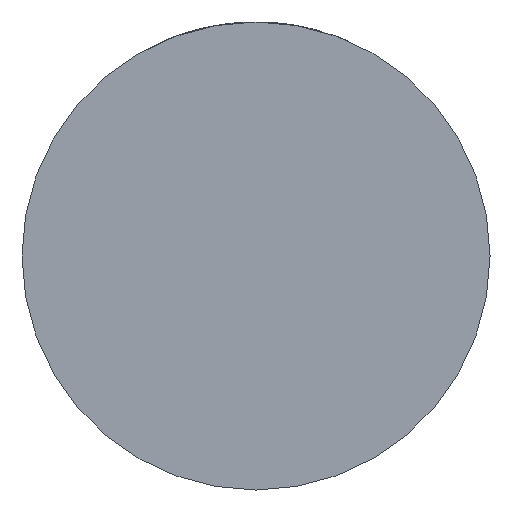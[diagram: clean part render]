
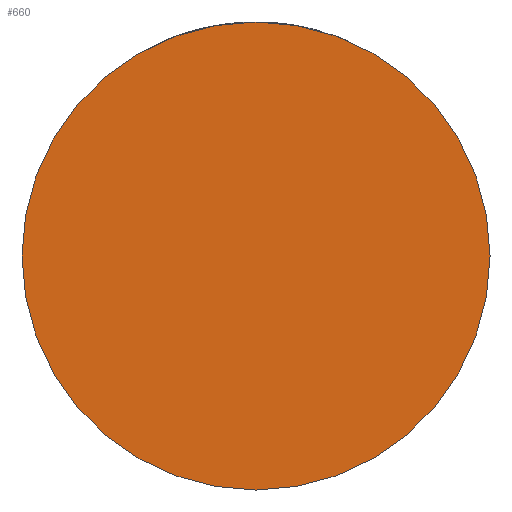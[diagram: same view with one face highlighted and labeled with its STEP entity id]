
A CAD part, front view. The second image highlights one B-rep face of the part: STEP entity #660.
In plain terms, the highlighted planar face has unit normal (0, -1, 0).
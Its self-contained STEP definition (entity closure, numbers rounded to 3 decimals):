
#318 = DIRECTION ( 'NONE',  ( 0., -1., 0. ) ) ;
#362 = CARTESIAN_POINT ( 'NONE',  ( 0., -25., 0. ) ) ;
#539 = PLANE ( 'NONE',  #2160 ) ;
#562 = DIRECTION ( 'NONE',  ( 1., 0., 0. ) ) ;
#660 = ADVANCED_FACE ( 'NONE', ( #2287 ), #539, .T. ) ;
#841 = CARTESIAN_POINT ( 'NONE',  ( 32., -25., 0. ) ) ;
#905 = EDGE_LOOP ( 'NONE', ( #1958, #1170 ) ) ;
#958 = DIRECTION ( 'NONE',  ( 1., 0., 0. ) ) ;
#1132 = CARTESIAN_POINT ( 'NONE',  ( -32., -25., 0. ) ) ;
#1170 = ORIENTED_EDGE ( 'NONE', *, *, #3451, .T. ) ;
#1303 = VERTEX_POINT ( 'NONE', #841 ) ;
#1743 = DIRECTION ( 'NONE',  ( 1., 0., 0. ) ) ;
#1863 = CIRCLE ( 'NONE', #4059, 32. ) ;
#1958 = ORIENTED_EDGE ( 'NONE', *, *, #2198, .T. ) ;
#2031 = CARTESIAN_POINT ( 'NONE',  ( 0., -25., 0. ) ) ;
#2160 = AXIS2_PLACEMENT_3D ( 'NONE', #2934, #3620, #562 ) ;
#2198 = EDGE_CURVE ( 'NONE', #2330, #1303, #3743, .T. ) ;
#2287 = FACE_OUTER_BOUND ( 'NONE', #905, .T. ) ;
#2330 = VERTEX_POINT ( 'NONE', #1132 ) ;
#2934 = CARTESIAN_POINT ( 'NONE',  ( 0., -25., 0. ) ) ;
#3451 = EDGE_CURVE ( 'NONE', #1303, #2330, #1863, .T. ) ;
#3620 = DIRECTION ( 'NONE',  ( 0., -1., 0. ) ) ;
#3674 = AXIS2_PLACEMENT_3D ( 'NONE', #2031, #318, #1743 ) ;
#3743 = CIRCLE ( 'NONE', #3674, 32. ) ;
#4059 = AXIS2_PLACEMENT_3D ( 'NONE', #362, #4338, #958 ) ;
#4338 = DIRECTION ( 'NONE',  ( 0., -1., 0. ) ) ;
